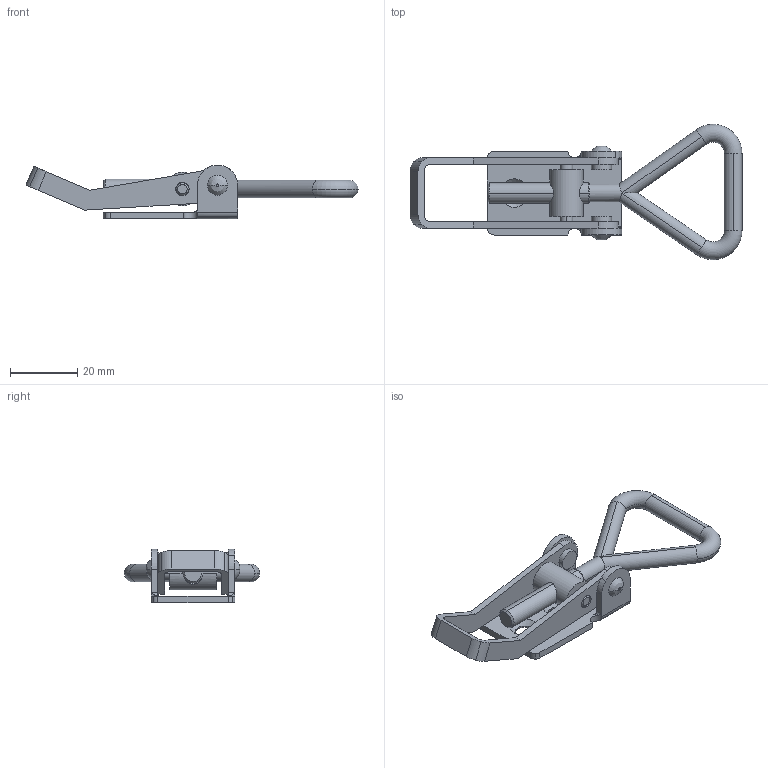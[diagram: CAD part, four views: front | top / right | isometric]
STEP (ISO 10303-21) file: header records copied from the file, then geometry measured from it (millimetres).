
FILE_DESCRIPTION((''),'2;1');
FILE_NAME('3015.30.stp','2012-09-10T08:51:01',(''),(''),'Mechanical Desktop 2006','Mechanical Desktop 2006',', , ');
FILE_SCHEMA(('CONFIG_CONTROL_DESIGN'));
Length unit declared in the file: millimetre
Products named in the file (6): 3015.30; TEIL1; HANDBET.B20; BOLZ.M6; BÜGEL; NITE
Assembly tree (6 placements, depth 2):
  3015.30
    TEIL1
    HANDBET.B20
    BOLZ.M6
    BÜGEL
    NITE  x2
Bounding box: 98.98 x 40.35 x 15.99 mm (x, y, z)
Volume: 8853 mm3; surface area: 9039.9 mm2
Topology: 6 solids, 6 shells, 135 faces, 343 edges, 222 vertices
Faces by surface type: cylinder 76, plane 37, cone 10, bspline 8, torus 4
Entity records: 4671 total; most frequent: CARTESIAN_POINT 1323, DIRECTION 708, ORIENTED_EDGE 650, EDGE_CURVE 325, AXIS2_PLACEMENT_3D 283, VERTEX_POINT 210, CIRCLE 152, EDGE_LOOP 145
